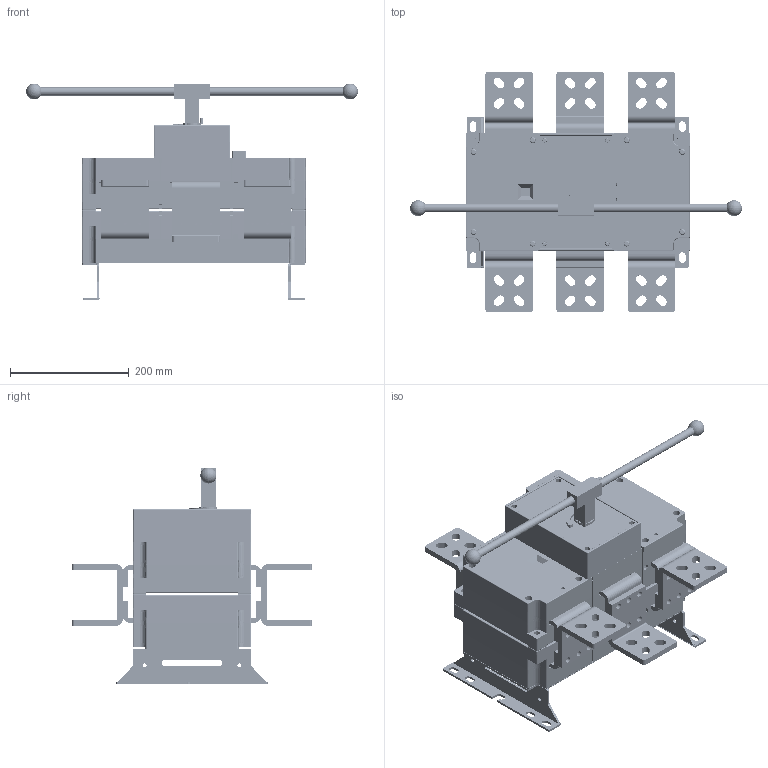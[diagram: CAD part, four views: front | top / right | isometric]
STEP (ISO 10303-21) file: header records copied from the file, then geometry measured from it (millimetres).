
FILE_DESCRIPTION (( 'STEP AP214' ), '1' );
FILE_NAME ('GL-2000-2500-3P.STEP', '2026-06-08T06:24:01', ( '' ), ( '' ), 'SwSTEP 2.0', 'SolidWorks 2024', '' );
FILE_SCHEMA (( 'AUTOMOTIVE_DESIGN' ));
Length unit declared in the file: millimetre
Products named in the file (34): HGL-100000_2-131600_1_1_1_1.stp; HGL-100000_2-201897_1_1_1_1.stp; 5X5500_2_1_1_1_1.stp; HGL-1000000_2-154330_1_1_1_1.stp; GL-2000-25003P_ASM_ASM_2_ASM_1__ASM_1.stp; 2500A000_2-84111_1_1_1_1.stp; HGL-1000_ASM0003_ASM_2_ASM_1_AS_ASM_1.stp; 20241114_2_1_1_1_1.stp; 4X2000_2_1_1_1_1.stp; SHOUBING_7_1_1_1_1.stp; HGL-2000-3_ASM0001_ASM_2_ASM_1__ASM_1.stp; GL-2000-25003P_ASM_2_ASM_1_ASM__ASM_1.stp; HGL-100000_2-163013_1_1_1_1.stp; HGL-1000100_2_1_1_1_1.stp; GL-2000-2500-3P; HGL-10000010_2_1_1_1_1.stp; HGL-1000_ASM0004_ASM_2_ASM_1_AS_ASM_1.stp; HGL-1000_ASM0005_ASM_2_ASM_1_AS_ASM_1.stp; 2500A000_2-22739_1_1_1_1.stp; M60001_2_1_1_1_1.stp; HGL-100000_2-104247_1_1_1_1.stp; HGL-1000000_2-164000_1_1_1_1.stp; M50001_2_1_1_1_1.stp; HGL-2500-300_2_1_1_1_1.stp; HGL-1000_ASM0002_ASM_2_ASM_1_AS_ASM_1.stp; 6X4500_2_1_1_1_1.stp; 5X4500_2_1_1_1_1.stp; HGLZ1-1600-3000_2_2_1_1_1_1.stp; 2500A00_ASM_2_ASM_1_ASM_1_ASM_1_ASM_1.stp; 6X2000_2_1_1_1_1.stp; HGL-100000_2-103639_1_1_1_1.stp; 000_2_1_1_1_1.stp; HGL-1000000_2-152302_1_1_1_1.stp; HGL-2000_ASM00_ASM_2_ASM_2_ASM__ASM_1.stp
Assembly tree (118 placements, depth 8):
  GL-2000-2500-3P
    GL-2000-25003P_ASM_ASM_2_ASM_1__ASM_1.stp
      GL-2000-25003P_ASM_2_ASM_1_ASM__ASM_1.stp
        2500A00_ASM_2_ASM_1_ASM_1_ASM_1_ASM_1.stp
          HGL-2000_ASM00_ASM_2_ASM_2_ASM__ASM_1.stp
            HGL-1000_ASM0002_ASM_2_ASM_1_AS_ASM_1.stp
              HGL-1000_ASM0003_ASM_2_ASM_1_AS_ASM_1.stp
                HGL-100000_2-103639_1_1_1_1.stp
                HGL-100000_2-104247_1_1_1_1.stp
              M50001_2_1_1_1_1.stp  x4
              5X5500_2_1_1_1_1.stp  x2
              HGL-100000_2-131600_1_1_1_1.stp
              5X4500_2_1_1_1_1.stp  x2
            HGL-1000_ASM0004_ASM_2_ASM_1_AS_ASM_1.stp
              HGL-1000000_2-152302_1_1_1_1.stp  x6
              HGL-1000000_2-154330_1_1_1_1.stp  x6
              HGL-100000_2-163013_1_1_1_1.stp
            HGL-1000_ASM0005_ASM_2_ASM_1_AS_ASM_1.stp
              6X2000_2_1_1_1_1.stp  x6
              HGL-100000_2-201897_1_1_1_1.stp
            M60001_2_1_1_1_1.stp  x8
            6X4500_2_1_1_1_1.stp  x8
            2500A000_2-22739_1_1_1_1.stp  x3
            000_2_1_1_1_1.stp  x9
            4X2000_2_1_1_1_1.stp
            2500A000_2-84111_1_1_1_1.stp  x3
            HGL-1000100_2_1_1_1_1.stp
            HGL-1000000_2-164000_1_1_1_1.stp
            HGL-10000010_2_1_1_1_1.stp
          HGL-2000-3_ASM0001_ASM_2_ASM_1__ASM_1.stp
            HGL-1000_ASM0005_ASM_2_ASM_1_AS_ASM_1.stp
              6X2000_2_1_1_1_1.stp  x6
              HGL-100000_2-201897_1_1_1_1.stp
            HGL-1000_ASM0004_ASM_2_ASM_1_AS_ASM_1.stp
              HGL-1000000_2-152302_1_1_1_1.stp  x6
              HGL-1000000_2-154330_1_1_1_1.stp  x6
              HGL-100000_2-163013_1_1_1_1.stp
            2500A000_2-84111_1_1_1_1.stp  x3
            6X4500_2_1_1_1_1.stp  x8
            000_2_1_1_1_1.stp  x9
            M60001_2_1_1_1_1.stp  x8
            2500A000_2-22739_1_1_1_1.stp  x3
            HGL-2500-300_2_1_1_1_1.stp
          HGLZ1-1600-3000_2_2_1_1_1_1.stp  x2
      20241114_2_1_1_1_1.stp  x6
      SHOUBING_7_1_1_1_1.stp
Bounding box: 560.09 x 405 x 366 mm (x, y, z)
Volume: 7425821.7 mm3; surface area: 2399464.5 mm2
Topology: 127 solids, 132 shells, 12299 faces, 35431 edges, 23553 vertices
Faces by surface type: cylinder 5546, plane 5020, bspline 1087, torus 301, cone 194, sphere 151
Entity records: 257762 total; most frequent: CARTESIAN_POINT 151583, ORIENTED_EDGE 23428, DIRECTION 19489, EDGE_CURVE 11714, VERTEX_POINT 7643, LINE 7335, VECTOR 7335, AXIS2_PLACEMENT_3D 6077
